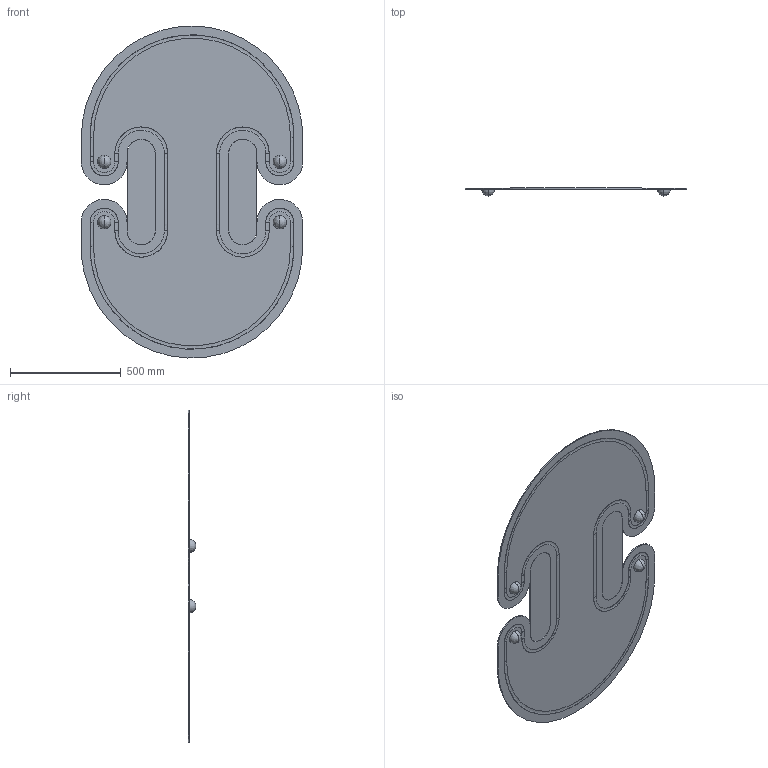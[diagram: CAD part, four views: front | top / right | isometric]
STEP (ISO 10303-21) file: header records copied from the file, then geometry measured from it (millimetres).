
FILE_DESCRIPTION(/* description */ (''),/* implementation_level */ '2;1');
FILE_NAME(/* name */ 'SATELL~1',/* time_stamp */ '2024-08-19T14:47:36+02:00',/* author */ (''),/* organization */ (''),/* preprocessor_version */ 'ST-DEVELOPER v16.5',/* originating_system */ '',/* authorisation */ '');
FILE_SCHEMA (('AUTOMOTIVE_DESIGN'));
Length unit declared in the file: millimetre
Products named in the file (1): Document
Bounding box: 1000 x 34.94 x 1499.64 mm (x, y, z)
Volume: 6219973.9 mm3; surface area: 2554026.9 mm2
Topology: 7 solids, 7 shells, 71 faces, 191 edges, 127 vertices
Faces by surface type: bspline 60, plane 11
Entity records: 7383 total; most frequent: CARTESIAN_POINT 6398, ORIENTED_EDGE 344, EDGE_CURVE 172, VERTEX_POINT 116, EDGE_LOOP 72, ADVANCED_FACE 71, FACE_OUTER_BOUND 71, PRESENTATION_LAYER_ASSIGNMENT 18
